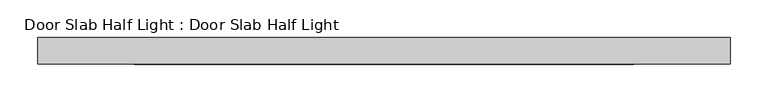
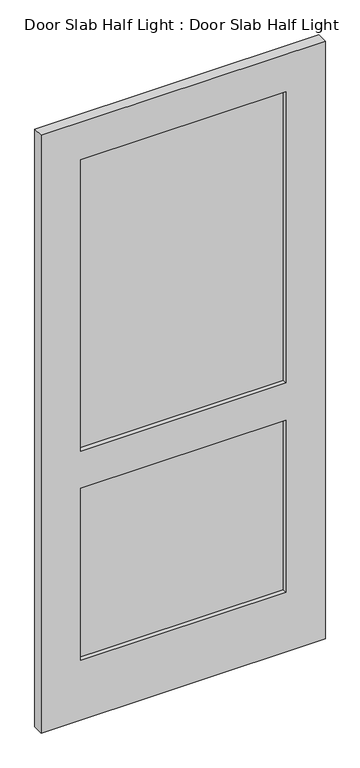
"""IFC4 building model written with IfcOpenShell, lengths in millimetres: proxy geometry, Door Slab Half Light : Door Slab Half Light."""

import ifcopenshell
import ifcopenshell.guid

model = None  # the IFC model being written
_history = None  # IfcOwnerHistory: only IFC2X3 demands one
_inside = {}  # id of a spatial element -> (the spatial element, [elements in it])
_under = {}  # id of a project, library or spatial element -> (it, [spatial elements below it])
_declared = {}  # id of a project -> (the project, [libraries it declares])
_typed = {}  # id of a type object -> (the type object, [elements of that type])
_made_of = {}  # id of a material, layer set ... -> (it, [elements and type objects made of it])


def new_model(schema):
    """Start an empty IFC model of exactly this schema.

    Asked for "IFC4X3", IfcOpenShell would pick the latest addendum, in which some entities
    have other attributes; the version numbers below select the first issue.
    IFC2X3 requires an IfcOwnerHistory on every rooted entity: one is made here for all.
    """
    global model, _history
    if schema == "IFC4X3":
        model = ifcopenshell.file(schema_version=(4, 3, 0, 0))
    else:
        model = ifcopenshell.file(schema=schema)
    _inside.clear()
    _under.clear()
    _declared.clear()
    _typed.clear()
    _made_of.clear()
    _history = None
    if model.schema == "IFC2X3":
        org = make("IfcOrganization", Name="unknown")
        user = make(
            "IfcPersonAndOrganization",
            ThePerson=make("IfcPerson", FamilyName="unknown"),
            TheOrganization=org,
        )
        app = make(
            "IfcApplication",
            ApplicationDeveloper=org,
            Version="unknown",
            ApplicationFullName="unknown",
            ApplicationIdentifier="unknown",
        )
        _history = make(
            "IfcOwnerHistory",
            OwningUser=user,
            OwningApplication=app,
            ChangeAction="ADDED",
            CreationDate=0,
        )
    return model


def make(cls, **values):
    """One entity of the class cls with the attributes given. An attribute that is None is left unset."""
    return model.create_entity(
        cls, **{name: value for name, value in values.items() if value is not None}
    )


def rooted(cls, **values):
    """An entity with a GlobalId (a new one), such as an element, a storey or a relation."""
    return make(cls, GlobalId=ifcopenshell.guid.new(), OwnerHistory=_history, **values)


def si_unit(unit_type, name, prefix=None):
    """IfcSIUnit, for example si_unit("LENGTHUNIT", "METRE", prefix="MILLI")."""
    return make("IfcSIUnit", UnitType=unit_type, Prefix=prefix, Name=name)


def assignment(units):
    """IfcUnitAssignment: the units of a project."""
    return None if units is None else make("IfcUnitAssignment", Units=units)


def point(xyz):
    """IfcCartesianPoint."""
    return None if xyz is None else make("IfcCartesianPoint", Coordinates=xyz)


def direction(xyz):
    """IfcDirection."""
    return None if xyz is None else make("IfcDirection", DirectionRatios=xyz)


def frame(location, z_axis=None, x_axis=None):
    """IfcAxis2Placement3D, a coordinate frame: its origin and axes. An axis left out is left unset."""
    return make(
        "IfcAxis2Placement3D",
        Location=point(location),
        Axis=direction(z_axis),
        RefDirection=direction(x_axis),
    )


def origin():
    """The frame at (0, 0, 0) with its axes left unset."""
    return frame((0.0, 0.0, 0.0))


def place(relative_to, where):
    """IfcLocalPlacement: puts the frame where relative to a parent placement (None: the world)."""
    return make(
        "IfcLocalPlacement", PlacementRelTo=relative_to, RelativePlacement=where
    )


def context(
    kind, dimensions, precision=None, world=None, true_north=None, identifier=None
):
    """IfcGeometricRepresentationContext, for example the 3D "Model" context."""
    return make(
        "IfcGeometricRepresentationContext",
        ContextIdentifier=identifier,
        ContextType=kind,
        CoordinateSpaceDimension=dimensions,
        Precision=precision,
        WorldCoordinateSystem=world,
        TrueNorth=true_north,
    )


def project(units=None, contexts=None):
    """IfcProject with its units and contexts."""
    return rooted(
        "IfcProject",
        Name="project",
        RepresentationContexts=contexts,
        UnitsInContext=assignment(units),
    )


def spatial(cls, under=None, at=None, **own):
    """A site, building, storey or space (cls), placed at a placement, below another one or the project."""
    s = rooted(cls, ObjectPlacement=at, **own)
    if under is not None:
        _under.setdefault(under.id(), (under, []))[1].append(s)
    return s


def polyline(points):
    """IfcPolyline through the points."""
    return make("IfcPolyline", Points=[point(p) for p in points])


def outline(outer, holes=None, kind="AREA"):
    """IfcArbitraryClosedProfileDef: a profile drawn as a closed curve; with holes, ...WithVoids."""
    if holes is None:
        return make("IfcArbitraryClosedProfileDef", ProfileType=kind, OuterCurve=outer)
    return make(
        "IfcArbitraryProfileDefWithVoids",
        ProfileType=kind,
        OuterCurve=outer,
        InnerCurves=holes,
    )


def extrude(swept, where, along, depth):
    """IfcExtrudedAreaSolid: the profile swept, set in the frame where, extruded along a direction by depth."""
    return make(
        "IfcExtrudedAreaSolid",
        SweptArea=swept,
        Position=where,
        ExtrudedDirection=direction(along),
        Depth=depth,
    )


def shape(context_of_items, identifier, shape_type, items):
    """IfcShapeRepresentation: the items that make up one representation, for example the "Body"."""
    return make(
        "IfcShapeRepresentation",
        ContextOfItems=context_of_items,
        RepresentationIdentifier=identifier,
        RepresentationType=shape_type,
        Items=items,
    )


def source(mapping_origin, context_of_items, identifier, shape_type, items):
    """IfcRepresentationMap: a shape defined once, which mapped items show again and again."""
    return make(
        "IfcRepresentationMap",
        MappingOrigin=mapping_origin,
        MappedRepresentation=shape(context_of_items, identifier, shape_type, items),
    )


def transform(
    local_origin,
    x_axis=None,
    y_axis=None,
    z_axis=None,
    scale=None,
    scale2=None,
    scale3=None,
    uniform=True,
):
    """IfcCartesianTransformationOperator3D, or its non-uniform kind. x_axis, y_axis, z_axis: its Axis1, 2, 3."""
    if uniform:
        return make(
            "IfcCartesianTransformationOperator3D",
            Axis1=direction(x_axis),
            Axis2=direction(y_axis),
            LocalOrigin=point(local_origin),
            Scale=scale,
            Axis3=direction(z_axis),
        )
    return make(
        "IfcCartesianTransformationOperator3DnonUniform",
        Axis1=direction(x_axis),
        Axis2=direction(y_axis),
        LocalOrigin=point(local_origin),
        Scale=scale,
        Axis3=direction(z_axis),
        Scale2=scale2,
        Scale3=scale3,
    )


def mapped(mapping_source, mapping_target):
    """IfcMappedItem: shows the shape of a source again, moved by a transform."""
    return make(
        "IfcMappedItem", MappingSource=mapping_source, MappingTarget=mapping_target
    )


def made_of(thing, what):
    """Note that an element or type object is made of a material, layer set ...; save() writes the relation."""
    if what is not None:
        _made_of.setdefault(what.id(), (what, []))[1].append(thing)
    return thing


def element(
    cls,
    number,
    at=None,
    inside=None,
    cuts=None,
    type_object=None,
    material=None,
    context=None,
    identifier="Body",
    shape_type=None,
    held_by="IfcProductDefinitionShape",
    body=None,
    shapes=None,
    **own,
):
    """One element of the class cls, such as IfcWall. Its Tag is "e" and its number.

    at: its placement. inside: the storey or other place that contains it. cuts: it is an
    opening in that element (IfcRelVoidsElement). A single representation is given by context,
    identifier, shape_type and body (its items); several are given by shapes. held_by: the class
    of the entity that holds the representations. save() writes the other relations.
    """
    e = rooted(cls, Tag="e%d" % number, ObjectPlacement=at, **own)
    if body is not None:
        shapes = [shape(context, identifier, shape_type, body)]
    if shapes is not None:
        e.Representation = make(held_by, Representations=shapes)
    if inside is not None:
        _inside.setdefault(inside.id(), (inside, []))[1].append(e)
    if cuts is not None:
        rooted(
            "IfcRelVoidsElement", RelatingBuildingElement=cuts, RelatedOpeningElement=e
        )
    if type_object is not None:
        _typed.setdefault(type_object.id(), (type_object, []))[1].append(e)
    return made_of(e, material)


def aggregate(whole, parts):
    """IfcRelAggregates: a whole, such as a stair, and the parts it consists of."""
    return rooted("IfcRelAggregates", RelatingObject=whole, RelatedObjects=parts)


def save(model, path):
    """Write the relations noted so far, then the file.

    IfcRelAggregates (storeys below a building ...), IfcRelContainedInSpatialStructure (elements
    in a storey), IfcRelDefinesByType, IfcRelAssociatesMaterial and IfcRelDeclares: one each for
    every whole, place, type object, material and project.
    """
    for whole, parts in _under.values():
        aggregate(whole, parts)
    for where, things in _inside.values():
        rooted(
            "IfcRelContainedInSpatialStructure",
            RelatedElements=things,
            RelatingStructure=where,
        )
    for kind, things in _typed.values():
        rooted("IfcRelDefinesByType", RelatedObjects=things, RelatingType=kind)
    for what, things in _made_of.values():
        rooted("IfcRelAssociatesMaterial", RelatedObjects=things, RelatingMaterial=what)
    for by, libraries in _declared.values():
        rooted("IfcRelDeclares", RelatingContext=by, RelatedDefinitions=libraries)
    model.write(path)


def door_slab_half_light_door_slab_half_light_2d3cdd7a(model_context):
    return source(origin(), model_context, "Body", "SweptSolid", [
        extrude(outline(polyline([(330.2, 3.175), (330.2, -3.175), (-330.2, -3.175), (-330.2, 3.175), (330.2, 3.175)])), frame((0.0, 0.0, 203.2), z_axis=(0.0, 0.0, 1.0), x_axis=(1.0, 0.0, 0.0)), (0.0, 0.0, 1.0), 584.2),
        extrude(outline(polyline([(330.2, 3.175), (330.2, -3.175), (-330.2, -3.175), (-330.2, 3.175), (330.2, 3.175)])), frame((0.0, 0.0, 914.4), z_axis=(0.0, 0.0, 1.0), x_axis=(1.0, 0.0, 0.0)), (0.0, 0.0, 1.0), 990.6),
        extrude(outline(polyline([(0.0, 457.2), (2032.0, 457.2), (2032.0, -457.2), (0.0, -457.2), (0.0, 457.2)]), holes=[polyline([(203.2, 330.2), (203.2, -330.2), (787.4, -330.2), (787.4, 330.2), (203.2, 330.2)]), polyline([(914.4, -330.2), (1905.0, -330.2), (1905.0, 330.2), (914.4, 330.2), (914.4, -330.2)])]), frame((0.0, -17.4625, 0.0), z_axis=(0.0, 1.0, 0.0), x_axis=(0.0, 0.0, 1.0)), (0.0, 0.0, 1.0), 34.925),
    ])


if __name__ == "__main__":
    model = new_model("IFC4")
    model_context = context("Model", 3, world=origin())
    ifc_project = project(units=[si_unit("LENGTHUNIT", "METRE", prefix="MILLI")], contexts=[model_context])
    site = spatial("IfcSite", under=ifc_project)
    building = spatial("IfcBuilding", under=site)
    placement = place(None, origin())
    door_slab_half_light_door_slab_half_light_shape = door_slab_half_light_door_slab_half_light_2d3cdd7a(model_context)
    element("IfcBuildingElementProxy", 1, Name="Door Slab Half Light : Door Slab Half Light", ObjectType="Door Slab Half Light : Door Slab Half Light", at=placement, inside=building, context=model_context, shape_type="MappedRepresentation", body=[
        mapped(door_slab_half_light_door_slab_half_light_shape, transform((0.0, 0.0, 0.0), x_axis=(1.0, 0.0, 0.0), y_axis=(0.0, 1.0, 0.0), z_axis=(0.0, 0.0, 1.0))),
    ])
    save(model, "model.ifc")
